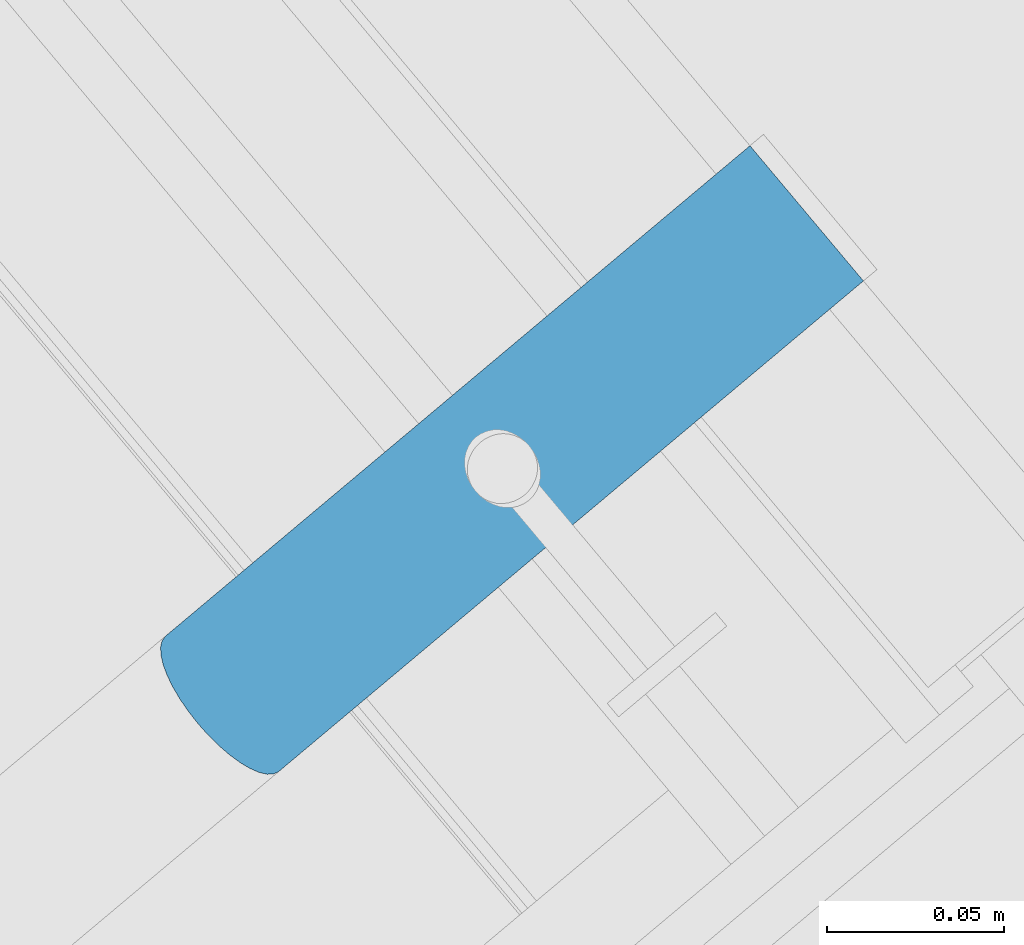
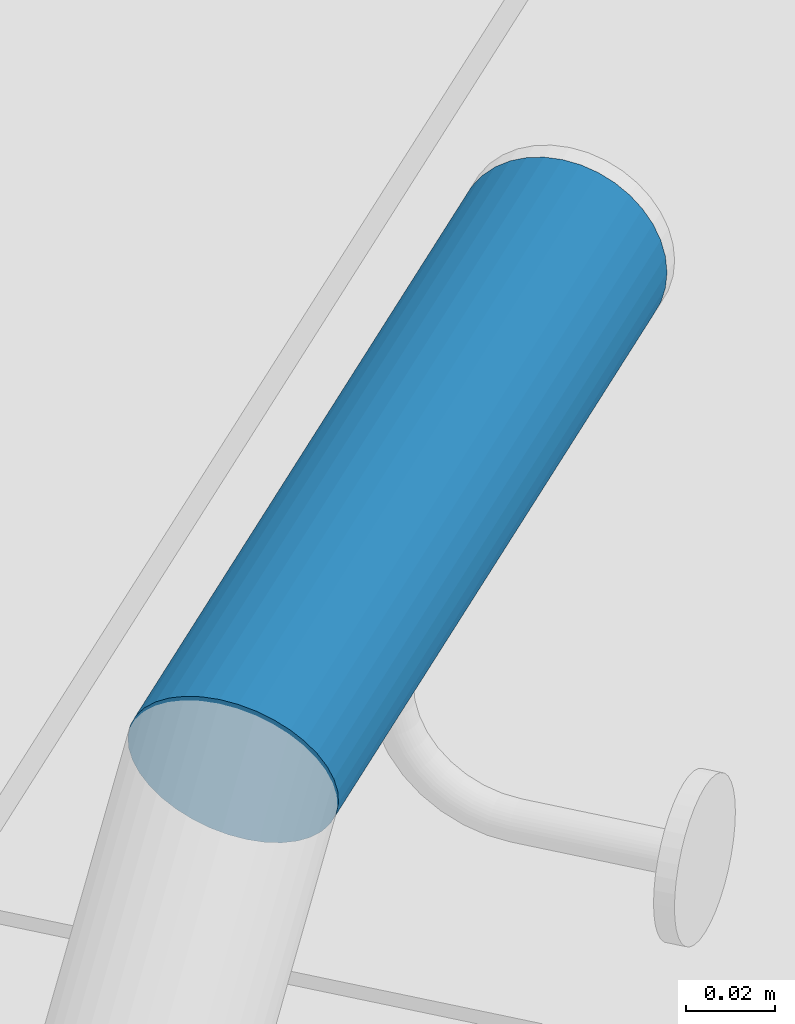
# One storey, part 17 of 338: 1 building element part, 2 elements without a shape of their own.
"""IFC2X3 building model written with IfcOpenShell, lengths in millimetres."""

from ifc_helpers import new_model, entity, si_unit, converted_unit, derived_unit, money_unit, direction, frame, origin_with_axes, place, context, subcontext, project, spatial, faceted_brep, source, transform, mapped, material, type_object, element, aggregate, save


model = new_model("IFC2X3")

# Units and contexts
model_context = context("Model", 3, precision=0.01, world=origin_with_axes(), true_north=direction((0.0, 1.0)))
plan_context = context("Plan", 3, precision=0.01, world=origin_with_axes(), true_north=direction((0.0, 1.0)))
body_context = subcontext(model_context, "Body", "Model", "MODEL_VIEW")
ifc_project = project(units=[si_unit("LENGTHUNIT", "METRE", prefix="MILLI"), si_unit("AREAUNIT", "SQUARE_METRE"), si_unit("VOLUMEUNIT", "CUBIC_METRE"), converted_unit("PLANEANGLEUNIT", "DEGREE", entity("IfcPlaneAngleMeasure", 0.0174532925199), si_unit("PLANEANGLEUNIT", "RADIAN"), dimensions=[0, 0, 0, 0, 0, 0, 0]), money_unit("EUR"), converted_unit("TIMEUNIT", "Year", entity("IfcTimeMeasure", 31556926.0), si_unit("TIMEUNIT", "SECOND"), dimensions=[0, 0, 1, 0, 0, 0, 0]), si_unit("MASSUNIT", "GRAM", prefix="KILO"), si_unit("THERMODYNAMICTEMPERATUREUNIT", "DEGREE_CELSIUS"), si_unit("LUMINOUSINTENSITYUNIT", "LUMEN"), si_unit("ENERGYUNIT", "JOULE", prefix="MEGA"), derived_unit("THERMALCONDUCTANCEUNIT", [(si_unit("POWERUNIT", "WATT"), 1), (si_unit("LENGTHUNIT", "METRE"), -1), (si_unit("THERMODYNAMICTEMPERATUREUNIT", "KELVIN"), -1)]), derived_unit("SPECIFICHEATCAPACITYUNIT", [(si_unit("ENERGYUNIT", "JOULE"), 1), (si_unit("MASSUNIT", "GRAM", prefix="KILO"), -1), (si_unit("THERMODYNAMICTEMPERATUREUNIT", "KELVIN"), -1)]), derived_unit("MASSDENSITYUNIT", [(si_unit("MASSUNIT", "GRAM", prefix="KILO"), 1), (si_unit("VOLUMEUNIT", "CUBIC_METRE"), -1)])], contexts=[model_context, plan_context])

# Site, building, storey
site_placement = place(None, origin_with_axes())
site = spatial("IfcSite", under=ifc_project, at=site_placement, Name="Fortuinstraat Woensdrecht", CompositionType="ELEMENT")
building_placement = place(site_placement, origin_with_axes())
building = spatial("IfcBuilding", under=site, at=building_placement, Name="IKC Fortuna", CompositionType="ELEMENT")
storey_placement = place(building_placement, origin_with_axes())
storey = spatial("IfcBuildingStorey", under=building, at=storey_placement, Name="00 begane grond", CompositionType="ELEMENT", Elevation=0.0)

# Railing, member, building element part
railing_type = type_object("IfcRailingType", Name="Railing Type", PredefinedType="NOTDEFINED")
railing_placement = place(storey_placement, frame((20422.3680821, 638.704533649, 2243.75), z_axis=(0.0, 0.0, 1.0), x_axis=(-0.173648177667, -0.984807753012, 0.0)))
railing = element("IfcRailing", 1, at=railing_placement, inside=storey, type_object=railing_type, Name="_Reling_Reling-x", PredefinedType="NOTDEFINED")
member_type = type_object("IfcMemberType", Name="IfcMember", PredefinedType="USERDEFINED")
member_placement = place(railing_placement, frame((-1454.87202508, 1015.90392235, 2294.09830056), z_axis=(0.0, 0.0, 1.0), x_axis=(-0.173648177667, 0.984807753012, 0.0)))
member = element("IfcMember", 2, at=member_placement, type_object=member_type, Name="_Reling - regel_Handregel-x")
aggregate(railing, [member])
ifc_material = material(Name="Hout AFW")
shared_shape = source(origin_with_axes(), body_context, "Body", "Brep", [
    faceted_brep([(-73.5942523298, 101.42300118, 875.0), (-74.5229719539, 100.147911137, 879.341204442), (92.2556831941, 240.09181916, 879.341204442), (92.0115484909, 240.382767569, 875.0), (-72.1772632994, 102.116194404, 870.658795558), (-70.3150593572, 102.206428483, 866.449496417), (-68.0642226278, 101.690961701, 862.5), (-65.4931436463, 100.585456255, 858.930309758), (-62.6799433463, 98.9235023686, 855.848888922), (-59.7100993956, 96.7555976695, 853.349364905), (-56.6738489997, 94.1476128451, 851.50768448), (-53.6634470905, 91.1787901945, 850.379806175), (-50.7703632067, 87.9393358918, 850.0), (-48.082502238, 84.5276791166, 850.379806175), (-45.68153348, 81.0474813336, 851.50768448), (-43.6404091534, 77.6044865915, 853.349364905), (-42.021147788, 74.3033085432, 855.848888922), (-40.8729498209, 71.2442518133, 858.930309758), (-40.2307026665, 68.5202642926, 862.5), (-40.1139206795, 66.2141129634, 866.449496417), (-40.5261522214, 64.3958690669, 870.658795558), (-41.4548718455, 63.1207790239, 875.0), (-42.871860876, 62.4275858, 879.341204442), (-44.7340648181, 62.3373517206, 883.550503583), (-46.9849015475, 62.8528185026, 887.5), (-49.5559805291, 63.9583239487, 891.069690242), (-52.369180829, 65.6202778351, 894.151111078), (-55.3390247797, 67.7881825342, 896.650635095), (-58.3752751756, 70.3961673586, 898.49231552), (-61.3856770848, 73.3649900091, 899.620193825), (-64.2787609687, 76.6044443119, 900.0), (-66.9666219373, 80.0161010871, 899.620193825), (-69.3675906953, 83.4962988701, 898.49231552), (-71.4087150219, 86.9392936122, 896.650635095), (-73.0279763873, 90.2404716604, 894.151111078), (-74.1761743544, 93.2995283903, 891.069690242), (-74.8184215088, 96.0235159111, 887.5), (-74.9352034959, 98.3296672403, 883.550503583), (92.9806693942, 239.227814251, 883.550503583), (94.1644787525, 237.817005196, 887.5), (95.7711418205, 235.902258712, 891.069690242), (97.7518409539, 233.541753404, 894.151111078), (100.046393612, 230.80721203, 896.650635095), (102.585080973, 227.781722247, 898.49231552), (105.290766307, 224.55721203, 899.620193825), (108.081238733, 221.231656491, 900.0), (110.871711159, 217.906100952, 899.620193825), (113.577396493, 214.681590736, 898.49231552), (116.116083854, 211.656100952, 896.650635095), (118.410636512, 208.921559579, 894.151111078), (120.391335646, 206.561054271, 891.069690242), (121.997998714, 204.646307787, 887.5), (123.181808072, 203.235498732, 883.550503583), (123.906794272, 202.371493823, 879.341204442), (124.150928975, 202.080545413, 875.0), (123.906794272, 202.371493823, 870.658795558), (123.181808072, 203.235498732, 866.449496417), (121.997998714, 204.646307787, 862.5), (120.391335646, 206.561054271, 858.930309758), (118.410636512, 208.921559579, 855.848888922), (116.116083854, 211.656100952, 853.349364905), (113.577396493, 214.681590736, 851.50768448), (110.871711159, 217.906100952, 850.379806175), (108.081238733, 221.231656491, 850.0), (105.290766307, 224.55721203, 850.379806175), (102.585080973, 227.781722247, 851.50768448), (100.046393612, 230.80721203, 853.349364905), (97.7518409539, 233.541753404, 855.848888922), (95.7711418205, 235.902258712, 858.930309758), (94.1644787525, 237.817005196, 862.5), (92.9806693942, 239.227814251, 866.449496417), (92.2556831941, 240.09181916, 870.658795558)], [[[0, 1, 2, 3]], [[0, 4, 5, 6, 7, 8, 9, 10, 11, 12, 13, 14, 15, 16, 17, 18, 19, 20, 21, 22, 23, 24, 25, 26, 27, 28, 29, 30, 31, 32, 33, 34, 35, 36, 37, 1]], [[1, 37, 38, 2]], [[3, 2, 38, 39, 40, 41, 42, 43, 44, 45, 46, 47, 48, 49, 50, 51, 52, 53, 54, 55, 56, 57, 58, 59, 60, 61, 62, 63, 64, 65, 66, 67, 68, 69, 70, 71]], [[4, 0, 3, 71]], [[5, 4, 71, 70]], [[6, 5, 70, 69]], [[7, 6, 69, 68]], [[8, 7, 68, 67]], [[9, 8, 67, 66]], [[10, 9, 66, 65]], [[11, 10, 65, 64]], [[12, 11, 64, 63]], [[13, 12, 63, 62]], [[14, 13, 62, 61]], [[15, 14, 61, 60]], [[16, 15, 60, 59]], [[17, 16, 59, 58]], [[18, 17, 58, 57]], [[19, 18, 57, 56]], [[20, 19, 56, 55]], [[21, 20, 55, 54]], [[22, 21, 54, 53]], [[23, 22, 53, 52]], [[24, 23, 52, 51]], [[25, 24, 51, 50]], [[26, 25, 50, 49]], [[27, 26, 49, 48]], [[28, 27, 48, 47]], [[29, 28, 47, 46]], [[30, 29, 46, 45]], [[31, 30, 45, 44]], [[32, 31, 44, 43]], [[33, 32, 43, 42]], [[34, 33, 42, 41]], [[35, 34, 41, 40]], [[36, 35, 40, 39]], [[37, 36, 39, 38]]]),
])
building_element_part_placement = place(member_placement, origin_with_axes())
building_element_part = element("IfcBuildingElementPart", 3, at=building_element_part_placement, material=ifc_material, Name="Hout AFW", context=body_context, shape_type="MappedRepresentation", body=[
    mapped(shared_shape, transform((-21.9012388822, -148.918050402, -844.098300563))),
])
aggregate(member, [building_element_part])

save(model, "model.ifc")
